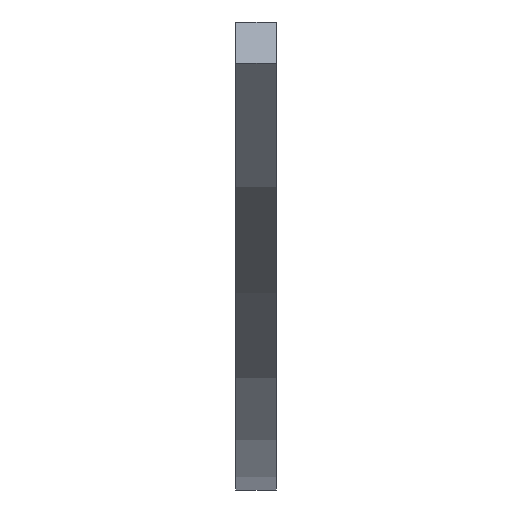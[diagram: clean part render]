
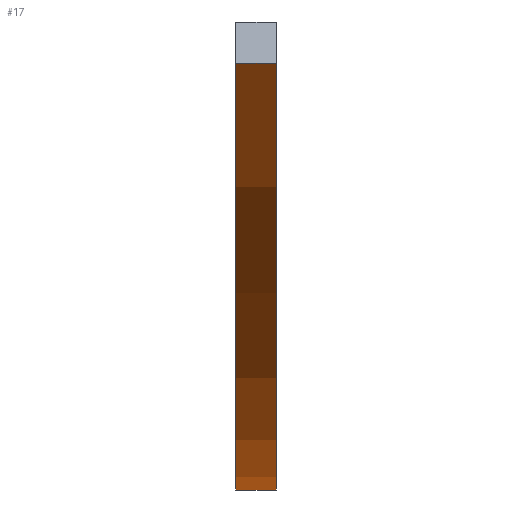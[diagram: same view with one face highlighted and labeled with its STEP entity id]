
A CAD part, front view. The second image highlights one B-rep face of the part: STEP entity #17.
In plain terms, the highlighted cylindrical face has radius 206 mm (diameter 412 mm), a partial arc.
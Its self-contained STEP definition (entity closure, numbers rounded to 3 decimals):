
#17 = ADVANCED_FACE('',(#18),#32,.T.);
#18 = FACE_BOUND('',#19,.T.);
#19 = EDGE_LOOP('',(#20,#55,#84,#110));
#20 = ORIENTED_EDGE('',*,*,#21,.T.);
#21 = EDGE_CURVE('',#22,#24,#26,.T.);
#22 = VERTEX_POINT('',#23);
#23 = CARTESIAN_POINT('',(69.,0.,-206.));
#24 = VERTEX_POINT('',#25);
#25 = CARTESIAN_POINT('',(76.5,0.,-206.));
#26 = SURFACE_CURVE('',#27,(#31,#43),.PCURVE_S1.);
#27 = LINE('',#28,#29);
#28 = CARTESIAN_POINT('',(69.,0.,-206.));
#29 = VECTOR('',#30,1.);
#30 = DIRECTION('',(1.,0.,0.));
#31 = PCURVE('',#32,#37);
#32 = CYLINDRICAL_SURFACE('',#33,206.);
#33 = AXIS2_PLACEMENT_3D('',#34,#35,#36);
#34 = CARTESIAN_POINT('',(69.,0.,0.));
#35 = DIRECTION('',(1.,0.,0.));
#36 = DIRECTION('',(0.,0.,-1.));
#37 = DEFINITIONAL_REPRESENTATION('',(#38),#42);
#38 = LINE('',#39,#40);
#39 = CARTESIAN_POINT('',(6.283,-0.));
#40 = VECTOR('',#41,1.);
#41 = DIRECTION('',(0.,1.));
#42 = ( GEOMETRIC_REPRESENTATION_CONTEXT(2) 
PARAMETRIC_REPRESENTATION_CONTEXT() REPRESENTATION_CONTEXT('2D SPACE',''
  ) );
#43 = PCURVE('',#44,#49);
#44 = CYLINDRICAL_SURFACE('',#45,206.);
#45 = AXIS2_PLACEMENT_3D('',#46,#47,#48);
#46 = CARTESIAN_POINT('',(69.,0.,0.));
#47 = DIRECTION('',(1.,0.,0.));
#48 = DIRECTION('',(0.,0.,-1.));
#49 = DEFINITIONAL_REPRESENTATION('',(#50),#54);
#50 = LINE('',#51,#52);
#51 = CARTESIAN_POINT('',(0.,-0.));
#52 = VECTOR('',#53,1.);
#53 = DIRECTION('',(0.,1.));
#54 = ( GEOMETRIC_REPRESENTATION_CONTEXT(2) 
PARAMETRIC_REPRESENTATION_CONTEXT() REPRESENTATION_CONTEXT('2D SPACE',''
  ) );
#55 = ORIENTED_EDGE('',*,*,#56,.F.);
#56 = EDGE_CURVE('',#57,#24,#59,.T.);
#57 = VERTEX_POINT('',#58);
#58 = CARTESIAN_POINT('',(76.5,-162.33,-126.826));
#59 = SURFACE_CURVE('',#60,(#65,#72),.PCURVE_S1.);
#60 = CIRCLE('',#61,206.);
#61 = AXIS2_PLACEMENT_3D('',#62,#63,#64);
#62 = CARTESIAN_POINT('',(76.5,0.,0.));
#63 = DIRECTION('',(1.,-0.,0.));
#64 = DIRECTION('',(0.,0.,-1.));
#65 = PCURVE('',#32,#66);
#66 = DEFINITIONAL_REPRESENTATION('',(#67),#71);
#67 = LINE('',#68,#69);
#68 = CARTESIAN_POINT('',(0.,7.5));
#69 = VECTOR('',#70,1.);
#70 = DIRECTION('',(1.,0.));
#71 = ( GEOMETRIC_REPRESENTATION_CONTEXT(2) 
PARAMETRIC_REPRESENTATION_CONTEXT() REPRESENTATION_CONTEXT('2D SPACE',''
  ) );
#72 = PCURVE('',#73,#78);
#73 = PLANE('',#74);
#74 = AXIS2_PLACEMENT_3D('',#75,#76,#77);
#75 = CARTESIAN_POINT('',(76.5,0.,0.));
#76 = DIRECTION('',(1.,0.,0.));
#77 = DIRECTION('',(0.,0.,-1.));
#78 = DEFINITIONAL_REPRESENTATION('',(#79),#83);
#79 = CIRCLE('',#80,206.);
#80 = AXIS2_PLACEMENT_2D('',#81,#82);
#81 = CARTESIAN_POINT('',(0.,0.));
#82 = DIRECTION('',(1.,0.));
#83 = ( GEOMETRIC_REPRESENTATION_CONTEXT(2) 
PARAMETRIC_REPRESENTATION_CONTEXT() REPRESENTATION_CONTEXT('2D SPACE',''
  ) );
#84 = ORIENTED_EDGE('',*,*,#85,.F.);
#85 = EDGE_CURVE('',#86,#57,#88,.T.);
#86 = VERTEX_POINT('',#87);
#87 = CARTESIAN_POINT('',(69.,-162.33,-126.826));
#88 = SURFACE_CURVE('',#89,(#93,#99),.PCURVE_S1.);
#89 = LINE('',#90,#91);
#90 = CARTESIAN_POINT('',(69.,-162.33,-126.826));
#91 = VECTOR('',#92,1.);
#92 = DIRECTION('',(1.,0.,0.));
#93 = PCURVE('',#32,#94);
#94 = DEFINITIONAL_REPRESENTATION('',(#95),#98);
#95 = B_SPLINE_CURVE_WITH_KNOTS('',1,(#96,#97),.UNSPECIFIED.,.F.,.F.,(2,
    2),(0.,7.5),.PIECEWISE_BEZIER_KNOTS.);
#96 = CARTESIAN_POINT('',(5.376,0.));
#97 = CARTESIAN_POINT('',(5.376,7.5));
#98 = ( GEOMETRIC_REPRESENTATION_CONTEXT(2) 
PARAMETRIC_REPRESENTATION_CONTEXT() REPRESENTATION_CONTEXT('2D SPACE',''
  ) );
#99 = PCURVE('',#100,#105);
#100 = PLANE('',#101);
#101 = AXIS2_PLACEMENT_3D('',#102,#103,#104);
#102 = CARTESIAN_POINT('',(68.,-0.788,-0.616));
#103 = DIRECTION('',(0.,0.616,-0.788));
#104 = DIRECTION('',(0.,-0.788,-0.616));
#105 = DEFINITIONAL_REPRESENTATION('',(#106),#109);
#106 = B_SPLINE_CURVE_WITH_KNOTS('',1,(#107,#108),.UNSPECIFIED.,.F.,.F.,
  (2,2),(0.,7.5),.PIECEWISE_BEZIER_KNOTS.);
#107 = CARTESIAN_POINT('',(205.,-1.));
#108 = CARTESIAN_POINT('',(205.,-8.5));
#109 = ( GEOMETRIC_REPRESENTATION_CONTEXT(2) 
PARAMETRIC_REPRESENTATION_CONTEXT() REPRESENTATION_CONTEXT('2D SPACE',''
  ) );
#110 = ORIENTED_EDGE('',*,*,#111,.T.);
#111 = EDGE_CURVE('',#86,#22,#112,.T.);
#112 = SURFACE_CURVE('',#113,(#118,#125),.PCURVE_S1.);
#113 = CIRCLE('',#114,206.);
#114 = AXIS2_PLACEMENT_3D('',#115,#116,#117);
#115 = CARTESIAN_POINT('',(69.,0.,0.));
#116 = DIRECTION('',(1.,-0.,0.));
#117 = DIRECTION('',(0.,0.,-1.));
#118 = PCURVE('',#32,#119);
#119 = DEFINITIONAL_REPRESENTATION('',(#120),#124);
#120 = LINE('',#121,#122);
#121 = CARTESIAN_POINT('',(0.,0.));
#122 = VECTOR('',#123,1.);
#123 = DIRECTION('',(1.,0.));
#124 = ( GEOMETRIC_REPRESENTATION_CONTEXT(2) 
PARAMETRIC_REPRESENTATION_CONTEXT() REPRESENTATION_CONTEXT('2D SPACE',''
  ) );
#125 = PCURVE('',#126,#131);
#126 = PLANE('',#127);
#127 = AXIS2_PLACEMENT_3D('',#128,#129,#130);
#128 = CARTESIAN_POINT('',(69.,0.,0.));
#129 = DIRECTION('',(1.,0.,0.));
#130 = DIRECTION('',(0.,0.,-1.));
#131 = DEFINITIONAL_REPRESENTATION('',(#132),#136);
#132 = CIRCLE('',#133,206.);
#133 = AXIS2_PLACEMENT_2D('',#134,#135);
#134 = CARTESIAN_POINT('',(0.,0.));
#135 = DIRECTION('',(1.,0.));
#136 = ( GEOMETRIC_REPRESENTATION_CONTEXT(2) 
PARAMETRIC_REPRESENTATION_CONTEXT() REPRESENTATION_CONTEXT('2D SPACE',''
  ) );
